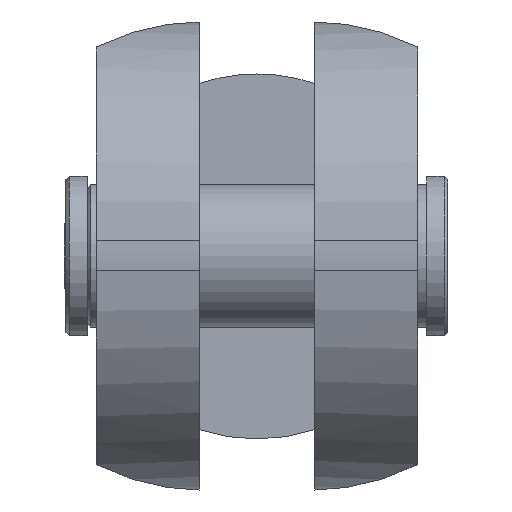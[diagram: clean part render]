
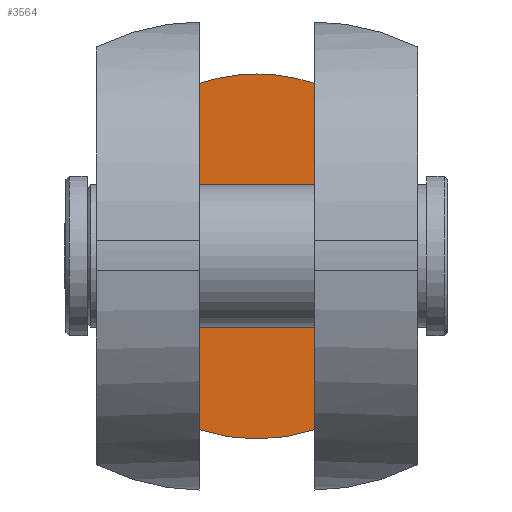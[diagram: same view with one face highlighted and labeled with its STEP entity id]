
A CAD part, top view. The second image highlights one B-rep face of the part: STEP entity #3564.
In plain terms, the highlighted planar face has unit normal (0, 0, 1).
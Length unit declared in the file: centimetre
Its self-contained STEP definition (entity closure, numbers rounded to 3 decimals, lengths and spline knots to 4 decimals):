
#440=LINE('',#5871,#788);
#441=LINE('',#5873,#789);
#788=VECTOR('',#4579,19.4894);
#789=VECTOR('',#4582,19.4894);
#946=PLANE('',#3791);
#1188=FACE_OUTER_BOUND('',#1429,.T.);
#1429=EDGE_LOOP('',(#3155,#3156,#3157,#3158));
#1464=CIRCLE('',#3645,10.2724);
#1465=CIRCLE('',#3646,10.2724);
#1529=VERTEX_POINT('',#4749);
#1530=VERTEX_POINT('',#4753);
#1535=VERTEX_POINT('',#4785);
#1536=VERTEX_POINT('',#4789);
#1851=EDGE_CURVE('',#1529,#1530,#1464,.T.);
#1857=EDGE_CURVE('',#1535,#1536,#1465,.T.);
#2252=EDGE_CURVE('',#1536,#1529,#440,.T.);
#2253=EDGE_CURVE('',#1535,#1530,#441,.T.);
#3155=ORIENTED_EDGE('',*,*,#1857,.F.);
#3156=ORIENTED_EDGE('',*,*,#2253,.T.);
#3157=ORIENTED_EDGE('',*,*,#1851,.F.);
#3158=ORIENTED_EDGE('',*,*,#2252,.F.);
#3564=ADVANCED_FACE('',(#1188),#946,.F.);
#3645=AXIS2_PLACEMENT_3D('',#4754,#3953,#3954);
#3646=AXIS2_PLACEMENT_3D('',#4790,#3955,#3956);
#3791=AXIS2_PLACEMENT_3D('',#5872,#4580,#4581);
#3953=DIRECTION('center_axis',(0.,0.,
-1.));
#3954=DIRECTION('ref_axis',(0.,1.,0.));
#3955=DIRECTION('center_axis',(0.,0.,
-1.));
#3956=DIRECTION('ref_axis',(0.,1.,0.));
#4579=DIRECTION('',(0.,-1.,0.));
#4580=DIRECTION('center_axis',(0.,0.,
-1.));
#4581=DIRECTION('ref_axis',(1.,0.,0.));
#4582=DIRECTION('',(0.,-1.,0.));
#4749=CARTESIAN_POINT('',(3.25,-9.7447,-15.5));
#4753=CARTESIAN_POINT('',(-3.25,-9.7447,-15.5));
#4754=CARTESIAN_POINT('Origin',(0.,0.,
-15.5));
#4785=CARTESIAN_POINT('',(-3.25,9.7447,-15.5));
#4789=CARTESIAN_POINT('',(3.25,9.7447,-15.5));
#4790=CARTESIAN_POINT('Origin',(0.,0.,
-15.5));
#5871=CARTESIAN_POINT('',(3.25,0.,-15.5));
#5872=CARTESIAN_POINT('Origin',(-3.25,0.,
-15.5));
#5873=CARTESIAN_POINT('',(-3.25,0.,-15.5));
